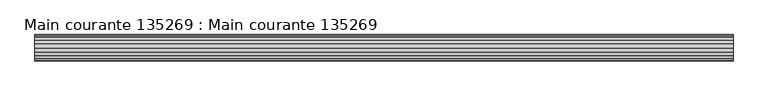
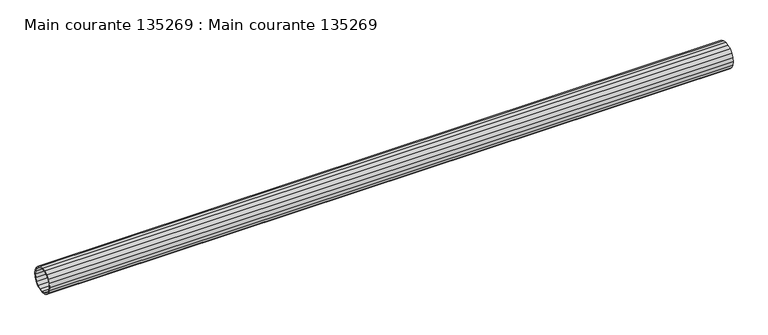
"""IFC4 building model written with IfcOpenShell, lengths in millimetres: beam geometry, Main courante 135269 : Main courante 135269."""

from ifc_helpers import new_model, si_unit, frame, origin, place, context, project, spatial, polyline, outline, extrude, source, transform, mapped, element, save


def main_courante_135269_main_courante_135269_6928d659(model_context):
    return source(origin(), model_context, "Body", "SweptSolid", [
        extrude(outline(polyline([(-14166.5, 8765.0), (-14165.3180149, 8772.4627604), (-14161.8877604, 8779.1950138), (-14156.5450138, 8784.5377604), (-14149.8127604, 8787.9680149), (-14142.35, 8789.15), (-14134.8872396, 8787.9680149), (-14128.1549862, 8784.5377604), (-14122.8122396, 8779.1950138), (-14119.3819851, 8772.4627604), (-14118.2, 8765.0), (-14119.3819851, 8757.5372396), (-14122.8122396, 8750.8049862), (-14128.1549862, 8745.4622396), (-14134.8872396, 8742.0319851), (-14142.35, 8740.85), (-14149.8127604, 8742.0319851), (-14156.5450138, 8745.4622396), (-14161.8877604, 8750.8049862), (-14165.3180149, 8757.5372396), (-14166.5, 8765.0)]), holes=[polyline([(-14164.0, 8765.0), (-14162.9403736, 8758.3097821), (-14159.8652179, 8752.2744493), (-14155.0755507, 8747.4847821), (-14149.0402179, 8744.4096264), (-14142.35, 8743.35), (-14135.6597821, 8744.4096264), (-14129.6244493, 8747.4847821), (-14124.8347821, 8752.2744493), (-14121.7596264, 8758.3097821), (-14120.7, 8765.0), (-14121.7596264, 8771.6902179), (-14124.8347821, 8777.7255507), (-14129.6244493, 8782.5152179), (-14135.6597821, 8785.5903736), (-14142.35, 8786.65), (-14149.0402179, 8785.5903736), (-14155.0755507, 8782.5152179), (-14159.8652179, 8777.7255507), (-14162.9403736, 8771.6902179), (-14164.0, 8765.0)])]), frame((8908.4999999, 0.0, 0.0), z_axis=(1.0, 0.0, 0.0), x_axis=(0.0, 1.0, 0.0)), (0.0, 0.0, 1.0), 1285.5),
    ])


if __name__ == "__main__":
    model = new_model("IFC4")
    model_context = context("Model", 3, world=origin())
    ifc_project = project(units=[si_unit("LENGTHUNIT", "METRE", prefix="MILLI")], contexts=[model_context])
    site = spatial("IfcSite", under=ifc_project)
    building = spatial("IfcBuilding", under=site)
    placement = place(None, origin())
    main_courante_135269_main_courante_135269_shape = main_courante_135269_main_courante_135269_6928d659(model_context)
    element("IfcBeam", 1, ObjectType="Main courante 135269 : Main courante 135269", at=placement, inside=building, context=model_context, shape_type="MappedRepresentation", body=[
        mapped(main_courante_135269_main_courante_135269_shape, transform((0.0, 0.0, 0.0), x_axis=(1.0, 0.0, 0.0), y_axis=(0.0, 1.0, 0.0), z_axis=(0.0, 0.0, 1.0))),
    ])
    save(model, "model.ifc")
